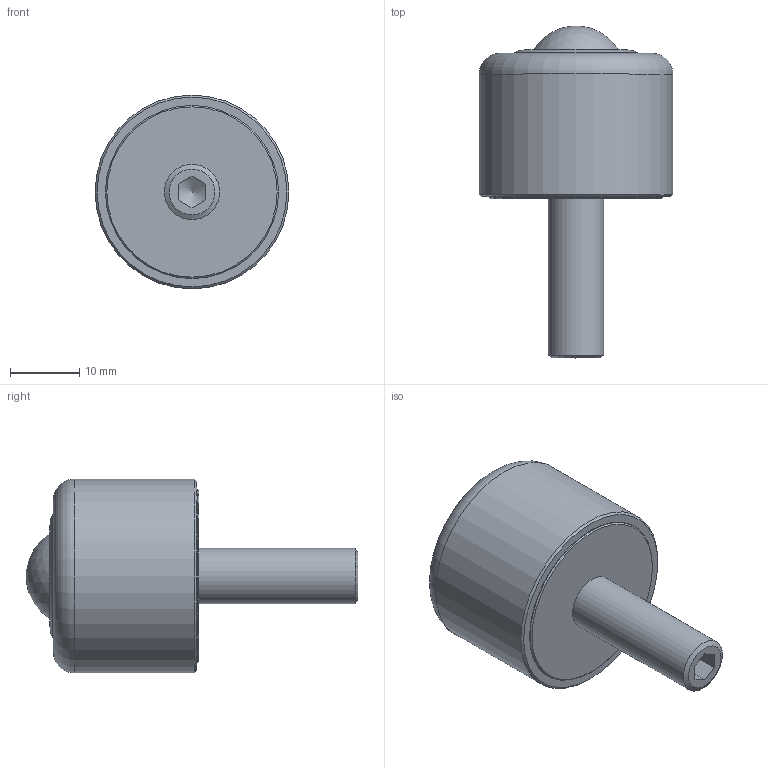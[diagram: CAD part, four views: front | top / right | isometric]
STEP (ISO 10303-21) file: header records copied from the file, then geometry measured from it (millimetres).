
FILE_DESCRIPTION(/* description */ (''),/* implementation_level */ '2;1');
FILE_NAME(/* name */ 'Z:\34-Tei\web 3Dデータ\17-IS-SN型\IS-13SN.stp',/* time_stamp */ '2015-01-09T16:07:46+09:00',/* author */ ('yamaki'),/* organization */ (''),/* preprocessor_version */ 'ST-DEVELOPER v15.6',/* originating_system */ 'Autodesk Inventor 2015',/* authorisation */ '');
FILE_SCHEMA (('AUTOMOTIVE_DESIGN { 1 0 10303 214 3 1 1 }'));
Length unit declared in the file: millimetre
Products named in the file (1): IS-13SN
Bounding box: 28 x 47.95 x 28 mm (x, y, z)
Volume: 14144.7 mm3; surface area: 3621.2 mm2
Topology: 1 solids, 1 shells, 23 faces, 45 edges, 28 vertices
Faces by surface type: plane 11, cone 5, torus 3, cylinder 3, sphere 1
Full cylindrical faces by diameter (mm): 8 x1, 25 x1, 28 x1
Entity records: 540 total; most frequent: CARTESIAN_POINT 96, DIRECTION 90, ORIENTED_EDGE 66, AXIS2_PLACEMENT_3D 39, EDGE_LOOP 38, EDGE_CURVE 33, VERTEX_POINT 27, FACE_OUTER_BOUND 23
